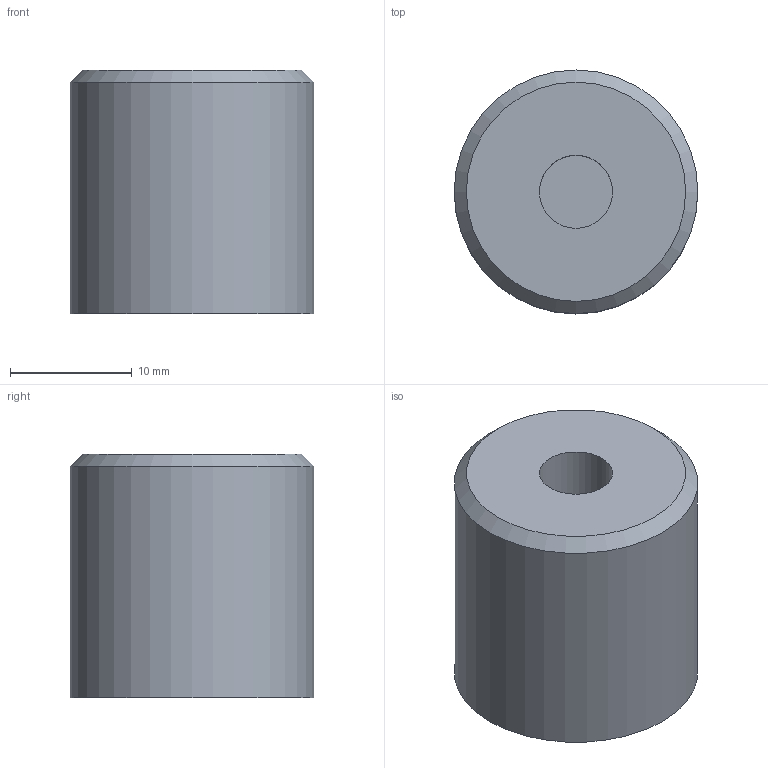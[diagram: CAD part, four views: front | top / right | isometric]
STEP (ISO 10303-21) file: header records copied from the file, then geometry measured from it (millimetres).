
FILE_DESCRIPTION(('Open CASCADE Model'),'2;1');
FILE_NAME('Open CASCADE Shape Model','2026-10-14T07:04:41',('Author'),( 'Open CASCADE'),'Open CASCADE STEP processor 7.8','Open CASCADE 7.8' ,'Unknown');
FILE_SCHEMA(('AUTOMOTIVE_DESIGN { 1 0 10303 214 1 1 1 1 }'));
Length unit declared in the file: millimetre
Products named in the file (1): Open CASCADE STEP translator 7.8 1
Bounding box: 20 x 20 x 20 mm (x, y, z)
Volume: 5913.5 mm3; surface area: 2073 mm2
Topology: 1 solids, 1 shells, 6 faces, 8 edges, 5 vertices
Faces by surface type: plane 3, cylinder 2, cone 1
Full cylindrical faces by diameter (mm): 6 x1, 20 x1
Entity records: 244 total; most frequent: CARTESIAN_POINT 44, DIRECTION 40, ORIENTED_EDGE 16, PCURVE 16, DEFINITIONAL_REPRESENTATION 16, LINE 13, VECTOR 13, AXIS2_PLACEMENT_3D 12
